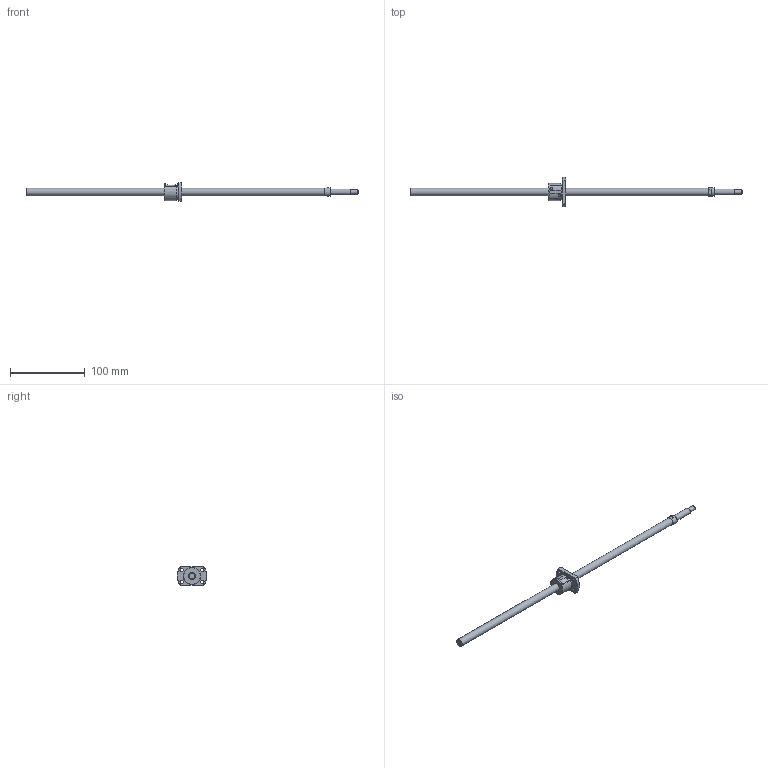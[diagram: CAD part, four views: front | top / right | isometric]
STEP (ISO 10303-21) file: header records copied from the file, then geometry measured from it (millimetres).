
FILE_DESCRIPTION(/* description */ ('STEP AP214'),/* implementation_level */ '2;1');
FILE_NAME(/* name */ 'SRT1002-396R445C7A0X(185Processing)',/* time_stamp */ '2026-08-05T22:54:42+02:00',/* author */ ('License CC BY-ND 4.0'),/* organization */ ('CADENAS'),/* preprocessor_version */ 'ST-DEVELOPER v20',/* originating_system */ 'PARTsolutions',/* authorisation */ ' ');
FILE_SCHEMA (('AUTOMOTIVE_DESIGN {1 0 10303 214 3 1 1}'));
Length unit declared in the file: millimetre
Products named in the file (3): SRT1002-396R445C7A0X(185Processing); SRT1002-396R470ACt7Processing58Shaft; SRT1002Nut
Assembly tree (2 placements, depth 2):
  SRT1002-396R445C7A0X(185Processing)
    SRT1002-396R470ACt7Processing58Shaft
    SRT1002Nut
Bounding box: 445 x 40 x 25 mm (x, y, z)
Volume: 43656.3 mm3; surface area: 18484.2 mm2
Topology: 2 solids, 2 shells, 62 faces, 154 edges, 101 vertices
Faces by surface type: plane 31, cylinder 17, cone 13, torus 1
Full cylindrical faces by diameter (mm): 1.4 x2, 4.5 x4, 6 x1, 8 x1, 10 x2, 11.5 x1, 22.5 x1, 23 x1
Entity records: 1751 total; most frequent: CARTESIAN_POINT 339, DIRECTION 288, ORIENTED_EDGE 236, AXIS2_PLACEMENT_3D 123, EDGE_CURVE 118, EDGE_LOOP 100, FACE_BOUND 100, VERTEX_POINT 88
